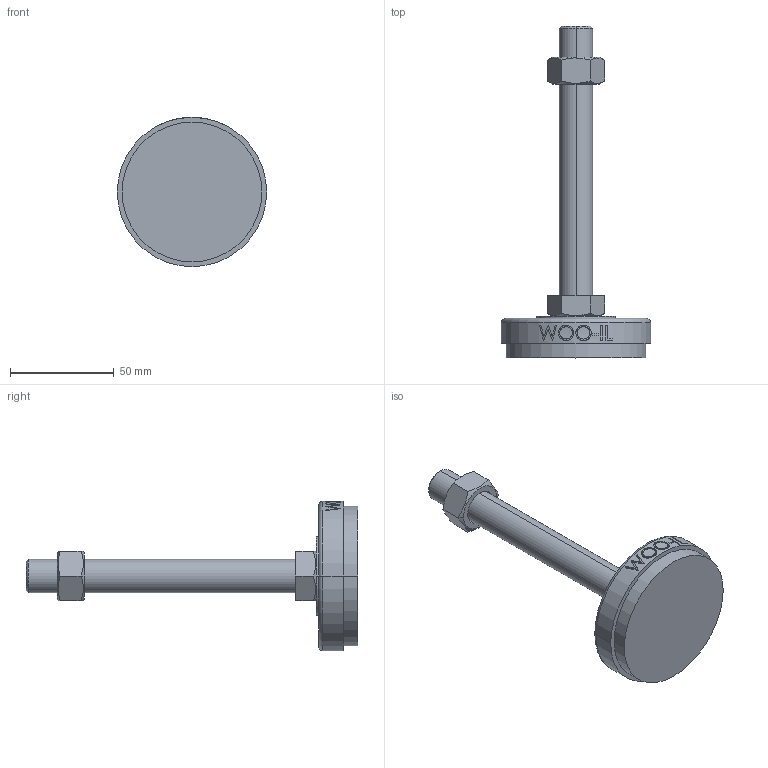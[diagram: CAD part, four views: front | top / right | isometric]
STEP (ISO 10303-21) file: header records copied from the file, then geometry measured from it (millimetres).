
FILE_DESCRIPTION (( 'STEP AP214' ), '1' );
FILE_NAME ('NS72-M16-130.step', '2021-01-11T05:47:24', ( '' ), ( '' ), 'SwSTEP 2.0', 'SolidWorks 2019', '' );
FILE_SCHEMA (( 'AUTOMOTIVE_DESIGN' ));
Length unit declared in the file: millimetre
Products named in the file (2): NS72-M16-130
Bounding box: 72 x 160 x 72 mm (x, y, z)
Volume: 109601.3 mm3; surface area: 22791.1 mm2
Topology: 3 solids, 3 shells, 96 faces, 223 edges, 144 vertices
Faces by surface type: plane 48, cylinder 18, bspline 16, cone 12, torus 2
Entity records: 4262 total; most frequent: CARTESIAN_POINT 2137, ORIENTED_EDGE 446, DIRECTION 381, EDGE_CURVE 223, VERTEX_POINT 144, AXIS2_PLACEMENT_3D 142, EDGE_LOOP 109, VECTOR 97
